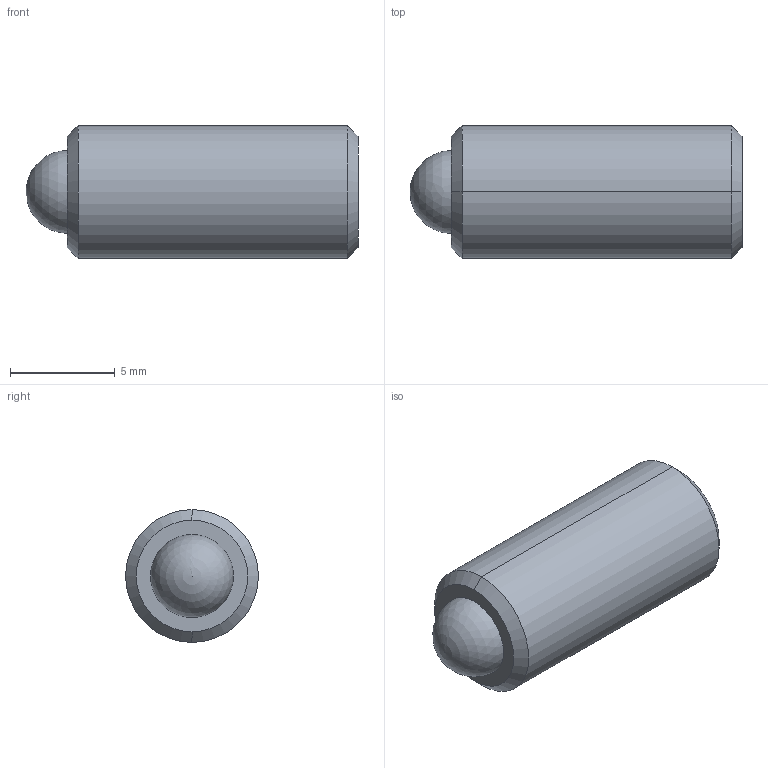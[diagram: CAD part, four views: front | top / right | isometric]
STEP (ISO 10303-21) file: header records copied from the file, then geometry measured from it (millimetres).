
FILE_DESCRIPTION (( 'STEP AP214' ), '1' );
FILE_NAME ('TS250-80-625.STEP', '2013-02-11T17:28:02', ( 'workpc' ), ( 'Microsoft' ), 'SwSTEP 2.0', 'SolidWorks 2013', '' );
FILE_SCHEMA (( 'AUTOMOTIVE_DESIGN' ));
Length unit declared in the file: inch
Products named in the file (1): TS250-80-625
Bounding box: 15.88 x 6.35 x 6.35 mm (x, y, z)
Volume: 432.1 mm3; surface area: 420.9 mm2
Topology: 2 solids, 2 shells, 20 faces, 45 edges, 29 vertices
Faces by surface type: plane 10, cylinder 4, cone 4, sphere 2
Entity records: 599 total; most frequent: DIRECTION 96, CARTESIAN_POINT 87, ORIENTED_EDGE 80, EDGE_CURVE 40, AXIS2_PLACEMENT_3D 35, VECTOR 26, LINE 26, VERTEX_POINT 26
